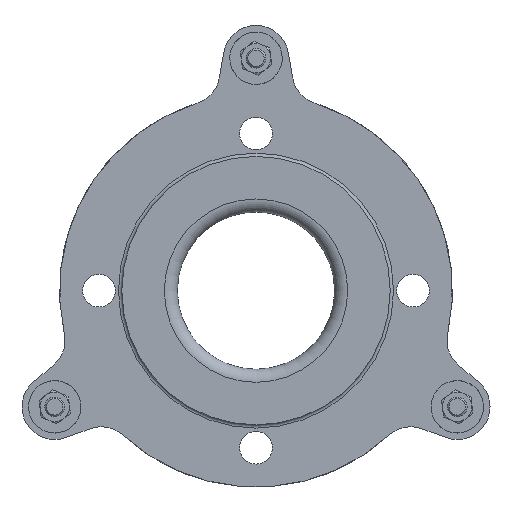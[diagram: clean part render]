
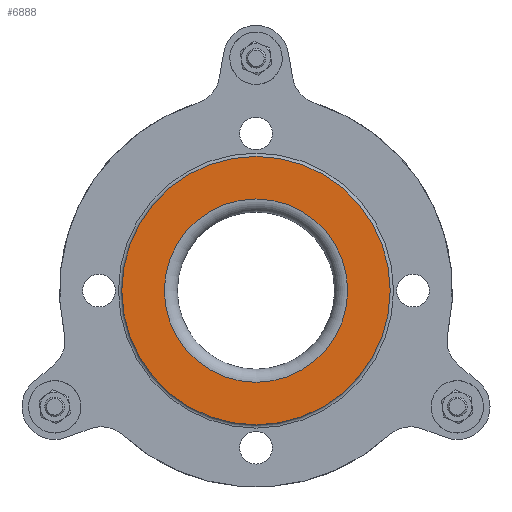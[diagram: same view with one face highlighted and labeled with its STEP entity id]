
A CAD part, front view. The second image highlights one B-rep face of the part: STEP entity #6888.
In plain terms, the highlighted planar face has unit normal (0, -1, 0).
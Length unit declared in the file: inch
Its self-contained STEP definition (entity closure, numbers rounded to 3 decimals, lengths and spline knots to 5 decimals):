
#1166=FACE_BOUND('',#2102,.T.);
#1486=FACE_OUTER_BOUND('',#2101,.T.);
#2101=EDGE_LOOP('',(#5270));
#2102=EDGE_LOOP('',(#5271));
#2554=CIRCLE('',#7560,2.5625);
#2591=CIRCLE('',#7635,1.75);
#3043=VERTEX_POINT('',#11465);
#3080=VERTEX_POINT('',#11577);
#3792=EDGE_CURVE('',#3043,#3043,#2554,.T.);
#3829=EDGE_CURVE('',#3080,#3080,#2591,.T.);
#5270=ORIENTED_EDGE('',*,*,#3792,.F.);
#5271=ORIENTED_EDGE('',*,*,#3829,.T.);
#6059=PLANE('',#7636);
#6888=ADVANCED_FACE('',(#1486,#1166),#6059,.T.);
#7560=AXIS2_PLACEMENT_3D('',#11466,#9022,#9023);
#7635=AXIS2_PLACEMENT_3D('',#11578,#9172,#9173);
#7636=AXIS2_PLACEMENT_3D('',#11579,#9174,#9175);
#9022=DIRECTION('center_axis',(0.,1.,0.));
#9023=DIRECTION('ref_axis',(1.,0.,0.));
#9172=DIRECTION('center_axis',(0.,1.,0.));
#9173=DIRECTION('ref_axis',(1.,0.,0.));
#9174=DIRECTION('center_axis',(0.,-1.,0.));
#9175=DIRECTION('ref_axis',(-1.,0.,0.));
#11465=CARTESIAN_POINT('',(3.51654,-3.8125,-2.5625));
#11466=CARTESIAN_POINT('Origin',(3.51654,-3.8125,0.));
#11577=CARTESIAN_POINT('',(3.51654,-3.8125,-1.75));
#11578=CARTESIAN_POINT('Origin',(3.51654,-3.8125,0.));
#11579=CARTESIAN_POINT('Origin',(3.51654,-3.8125,-2.5625));
